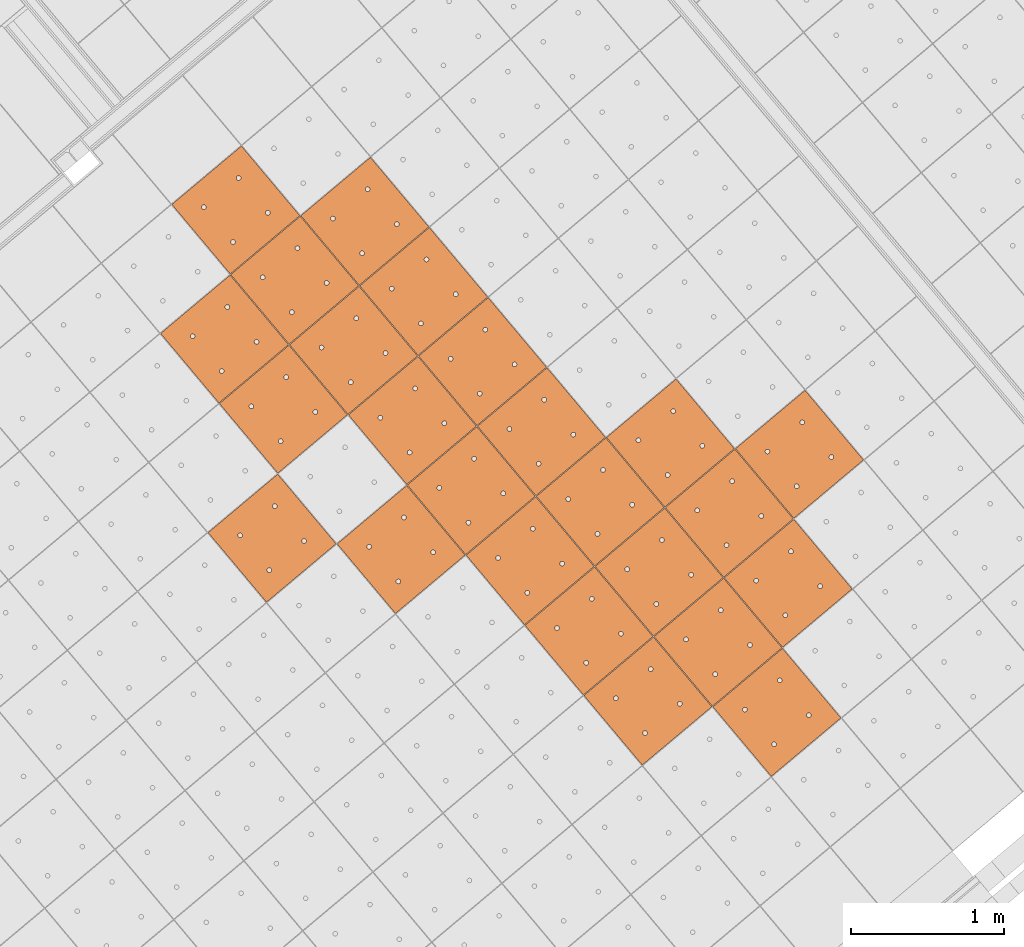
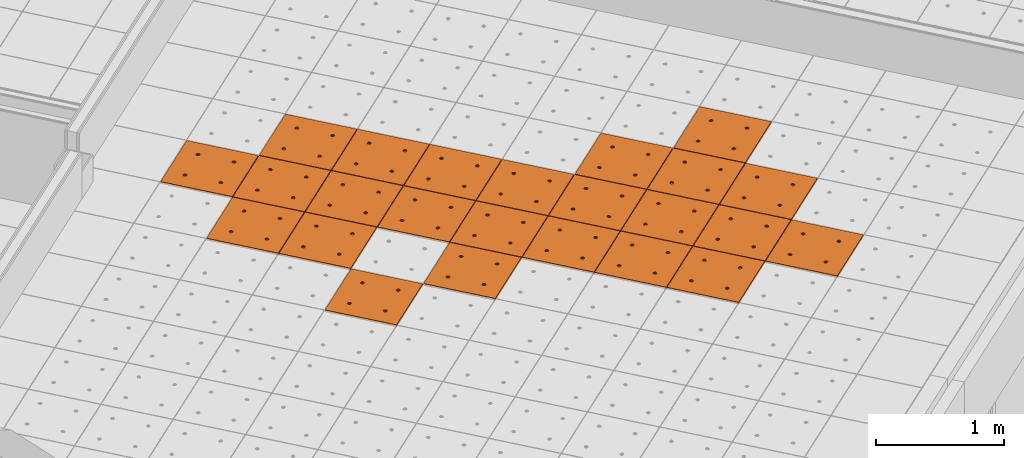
# One storey, part 134 of 338: 24 proxies, 1 element without a shape of its own.
"""IFC2X3 building model written with IfcOpenShell, lengths in millimetres."""

from ifc_helpers import new_model, entity, si_unit, converted_unit, derived_unit, money_unit, direction, frame, origin_with_axes, place, context, subcontext, project, spatial, faceted_brep, source, transform, mapped, material, type_object, type_shapes, element, aggregate, save


model = new_model("IFC2X3")

# Units and contexts
model_context = context("Model", 3, precision=0.01, world=origin_with_axes(), true_north=direction((0.0, 1.0)))
plan_context = context("Plan", 3, precision=0.01, world=origin_with_axes(), true_north=direction((0.0, 1.0)))
body_context = subcontext(model_context, "Body", "Model", "MODEL_VIEW")
ifc_project = project(units=[si_unit("LENGTHUNIT", "METRE", prefix="MILLI"), si_unit("AREAUNIT", "SQUARE_METRE"), si_unit("VOLUMEUNIT", "CUBIC_METRE"), converted_unit("PLANEANGLEUNIT", "DEGREE", entity("IfcPlaneAngleMeasure", 0.0174532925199), si_unit("PLANEANGLEUNIT", "RADIAN"), dimensions=[0, 0, 0, 0, 0, 0, 0]), money_unit("EUR"), converted_unit("TIMEUNIT", "Year", entity("IfcTimeMeasure", 31556926.0), si_unit("TIMEUNIT", "SECOND"), dimensions=[0, 0, 1, 0, 0, 0, 0]), si_unit("MASSUNIT", "GRAM", prefix="KILO"), si_unit("THERMODYNAMICTEMPERATUREUNIT", "DEGREE_CELSIUS"), si_unit("LUMINOUSINTENSITYUNIT", "LUMEN"), si_unit("ENERGYUNIT", "JOULE", prefix="MEGA"), derived_unit("THERMALCONDUCTANCEUNIT", [(si_unit("POWERUNIT", "WATT"), 1), (si_unit("LENGTHUNIT", "METRE"), -1), (si_unit("THERMODYNAMICTEMPERATUREUNIT", "KELVIN"), -1)]), derived_unit("SPECIFICHEATCAPACITYUNIT", [(si_unit("ENERGYUNIT", "JOULE"), 1), (si_unit("MASSUNIT", "GRAM", prefix="KILO"), -1), (si_unit("THERMODYNAMICTEMPERATUREUNIT", "KELVIN"), -1)]), derived_unit("MASSDENSITYUNIT", [(si_unit("MASSUNIT", "GRAM", prefix="KILO"), 1), (si_unit("VOLUMEUNIT", "CUBIC_METRE"), -1)])], contexts=[model_context, plan_context])

# Site, building, storey
site_placement = place(None, origin_with_axes())
site = spatial("IfcSite", under=ifc_project, at=site_placement, Name="Fortuinstraat Woensdrecht", CompositionType="ELEMENT")
building_placement = place(site_placement, origin_with_axes())
building = spatial("IfcBuilding", under=site, at=building_placement, Name="IKC Fortuna", CompositionType="ELEMENT")
storey_placement = place(building_placement, origin_with_axes())
storey = spatial("IfcBuildingStorey", under=building, at=storey_placement, Name="00 begane grond", CompositionType="ELEMENT", Elevation=0.0)

# Covering, proxies
covering_type = type_object("IfcCoveringType", Name="Curtain Wall Type", PredefinedType="CEILING")
covering_placement = place(storey_placement, frame((15150.6418133, -6622.13986243, 4660.0), z_axis=(0.0, 0.0, 1.0), x_axis=(1.0, 0.0, 0.0)))
covering = element("IfcCovering", 1, at=covering_placement, inside=storey, type_object=covering_type, Name="45_Plafondafwerking_P01", PredefinedType="CEILING")
ifc_material = material(Name="Gipsplaat")
building_element_proxy_type = type_object("IfcBuildingElementProxyType", Name="Main Panel 600 x 600 x 20", PredefinedType="NOTDEFINED")
shared_shape = source(origin_with_axes(), body_context, "Body", "Brep", [
    faceted_brep([(2.49999999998, 2.49999999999, -10.0), (300.0, 2.49999999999, -10.0), (300.0, 2.49999999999, 10.0), (2.49999999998, 2.49999999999, 10.0), (2.49999999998, 300.0, -10.0), (2.49999999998, 597.5, -10.0), (300.0, 597.5, -10.0), (597.5, 597.5, -10.0), (597.5, 300.0, -10.0), (597.5, 2.49999999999, -10.0), (166.25, 450.06232995, -10.0), (165.79423259, 452.64711538, -10.0), (164.896546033, 455.11348892, -10.0), (163.58421608, 457.38651108, -10.0), (161.897117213, 459.39711721, -10.0), (159.886511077, 461.08421608, -10.0), (157.613488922, 462.39654603, -10.0), (155.147115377, 463.29423259, -10.0), (152.562329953, 463.75, -10.0), (149.937670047, 463.75, -10.0), (147.352884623, 463.29423259, -10.0), (144.886511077, 462.39654603, -10.0), (142.613488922, 461.08421608, -10.0), (140.602882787, 459.39711721, -10.0), (138.91578392, 457.38651108, -10.0), (137.603453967, 455.11348892, -10.0), (136.705767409, 452.64711538, -10.0), (136.25, 450.06232995, -10.0), (136.25, 448.75, -10.0), (136.25, 447.43767005, -10.0), (136.705767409, 444.85288462, -10.0), (137.603453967, 442.38651108, -10.0), (138.91578392, 440.11348892, -10.0), (140.602882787, 438.10288279, -10.0), (142.613488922, 436.41578392, -10.0), (144.886511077, 435.10345397, -10.0), (147.352884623, 434.20576741, -10.0), (149.937670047, 433.75, -10.0), (152.562329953, 433.75, -10.0), (155.147115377, 434.20576741, -10.0), (157.613488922, 435.10345397, -10.0), (159.886511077, 436.41578392, -10.0), (161.897117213, 438.10288279, -10.0), (163.58421608, 440.11348892, -10.0), (164.896546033, 442.38651108, -10.0), (165.79423259, 444.85288462, -10.0), (166.25, 447.43767005, -10.0), (463.75, 450.06232995, -10.0), (463.29423259, 452.64711538, -10.0), (462.396546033, 455.11348892, -10.0), (461.08421608, 457.38651108, -10.0), (459.397117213, 459.39711721, -10.0), (457.386511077, 461.08421608, -10.0), (455.113488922, 462.39654603, -10.0), (452.647115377, 463.29423259, -10.0), (450.062329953, 463.75, -10.0), (447.437670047, 463.75, -10.0), (444.852884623, 463.29423259, -10.0), (442.386511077, 462.39654603, -10.0), (440.113488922, 461.08421608, -10.0), (438.102882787, 459.39711721, -10.0), (436.41578392, 457.38651108, -10.0), (435.103453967, 455.11348892, -10.0), (434.205767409, 452.64711538, -10.0), (433.75, 450.06232995, -10.0), (433.75, 448.75, -10.0), (433.75, 447.43767005, -10.0), (434.205767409, 444.85288462, -10.0), (435.103453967, 442.38651108, -10.0), (436.41578392, 440.11348892, -10.0), (438.102882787, 438.10288279, -10.0), (440.113488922, 436.41578392, -10.0), (442.386511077, 435.10345397, -10.0), (444.852884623, 434.20576741, -10.0), (447.437670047, 433.75, -10.0), (450.062329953, 433.75, -10.0), (452.647115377, 434.20576741, -10.0), (455.113488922, 435.10345397, -10.0), (457.386511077, 436.41578392, -10.0), (459.397117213, 438.10288279, -10.0), (461.08421608, 440.11348892, -10.0), (462.396546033, 442.38651108, -10.0), (463.29423259, 444.85288462, -10.0), (463.75, 447.43767005, -10.0), (463.75, 152.56232995, -10.0), (463.29423259, 155.14711538, -10.0), (462.396546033, 157.61348892, -10.0), (461.08421608, 159.88651108, -10.0), (459.397117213, 161.89711721, -10.0), (457.386511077, 163.58421608, -10.0), (455.113488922, 164.89654603, -10.0), (452.647115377, 165.79423259, -10.0), (450.062329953, 166.25, -10.0), (447.437670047, 166.25, -10.0), (444.852884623, 165.79423259, -10.0), (442.386511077, 164.89654603, -10.0), (440.113488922, 163.58421608, -10.0), (438.102882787, 161.89711721, -10.0), (436.41578392, 159.88651108, -10.0), (435.103453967, 157.61348892, -10.0), (434.205767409, 155.14711538, -10.0), (433.75, 152.56232995, -10.0), (433.75, 151.25, -10.0), (433.75, 149.93767005, -10.0), (434.205767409, 147.35288462, -10.0), (435.103453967, 144.88651108, -10.0), (436.41578392, 142.61348892, -10.0), (438.102882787, 140.60288279, -10.0), (440.113488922, 138.91578392, -10.0), (442.386511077, 137.60345397, -10.0), (444.852884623, 136.70576741, -10.0), (447.437670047, 136.25, -10.0), (450.062329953, 136.25, -10.0), (452.647115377, 136.70576741, -10.0), (455.113488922, 137.60345397, -10.0), (457.386511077, 138.91578392, -10.0), (459.397117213, 140.60288279, -10.0), (461.08421608, 142.61348892, -10.0), (462.396546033, 144.88651108, -10.0), (463.29423259, 147.35288462, -10.0), (463.75, 149.93767005, -10.0), (166.25, 152.56232995, -10.0), (165.79423259, 155.14711538, -10.0), (164.896546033, 157.61348892, -10.0), (163.58421608, 159.88651108, -10.0), (161.897117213, 161.89711721, -10.0), (159.886511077, 163.58421608, -10.0), (157.613488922, 164.89654603, -10.0), (155.147115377, 165.79423259, -10.0), (152.562329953, 166.25, -10.0), (149.937670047, 166.25, -10.0), (147.352884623, 165.79423259, -10.0), (144.886511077, 164.89654603, -10.0), (142.613488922, 163.58421608, -10.0), (140.602882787, 161.89711721, -10.0), (138.91578392, 159.88651108, -10.0), (137.603453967, 157.61348892, -10.0), (136.705767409, 155.14711538, -10.0), (136.25, 152.56232995, -10.0), (136.25, 151.25, -10.0), (136.25, 149.93767005, -10.0), (136.705767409, 147.35288462, -10.0), (137.603453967, 144.88651108, -10.0), (138.91578392, 142.61348892, -10.0), (140.602882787, 140.60288279, -10.0), (142.613488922, 138.91578392, -10.0), (144.886511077, 137.60345397, -10.0), (147.352884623, 136.70576741, -10.0), (149.937670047, 136.25, -10.0), (152.562329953, 136.25, -10.0), (155.147115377, 136.70576741, -10.0), (157.613488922, 137.60345397, -10.0), (159.886511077, 138.91578392, -10.0), (161.897117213, 140.60288279, -10.0), (163.58421608, 142.61348892, -10.0), (164.896546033, 144.88651108, -10.0), (165.79423259, 147.35288462, -10.0), (166.25, 149.93767005, -10.0), (597.5, 2.49999999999, 10.0), (597.5, 300.0, 10.0), (597.5, 597.5, 10.0), (300.0, 597.5, 10.0), (2.49999999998, 597.5, 10.0), (2.49999999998, 300.0, 10.0), (166.25, 450.06232995, 10.0), (166.25, 447.43767005, 10.0), (165.79423259, 444.85288462, 10.0), (164.896546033, 442.38651108, 10.0), (163.58421608, 440.11348892, 10.0), (161.897117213, 438.10288279, 10.0), (159.886511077, 436.41578392, 10.0), (157.613488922, 435.10345397, 10.0), (155.147115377, 434.20576741, 10.0), (152.562329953, 433.75, 10.0), (149.937670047, 433.75, 10.0), (147.352884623, 434.20576741, 10.0), (144.886511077, 435.10345397, 10.0), (142.613488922, 436.41578392, 10.0), (140.602882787, 438.10288279, 10.0), (138.91578392, 440.11348892, 10.0), (137.603453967, 442.38651108, 10.0), (136.705767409, 444.85288462, 10.0), (136.25, 447.43767005, 10.0), (136.25, 448.75, 10.0), (136.25, 450.06232995, 10.0), (136.705767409, 452.64711538, 10.0), (137.603453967, 455.11348892, 10.0), (138.91578392, 457.38651108, 10.0), (140.602882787, 459.39711721, 10.0), (142.613488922, 461.08421608, 10.0), (144.886511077, 462.39654603, 10.0), (147.352884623, 463.29423259, 10.0), (149.937670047, 463.75, 10.0), (152.562329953, 463.75, 10.0), (155.147115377, 463.29423259, 10.0), (157.613488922, 462.39654603, 10.0), (159.886511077, 461.08421608, 10.0), (161.897117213, 459.39711721, 10.0), (163.58421608, 457.38651108, 10.0), (164.896546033, 455.11348892, 10.0), (165.79423259, 452.64711538, 10.0), (463.75, 450.06232995, 10.0), (463.75, 447.43767005, 10.0), (463.29423259, 444.85288462, 10.0), (462.396546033, 442.38651108, 10.0), (461.08421608, 440.11348892, 10.0), (459.397117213, 438.10288279, 10.0), (457.386511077, 436.41578392, 10.0), (455.113488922, 435.10345397, 10.0), (452.647115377, 434.20576741, 10.0), (450.062329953, 433.75, 10.0), (447.437670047, 433.75, 10.0), (444.852884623, 434.20576741, 10.0), (442.386511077, 435.10345397, 10.0), (440.113488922, 436.41578392, 10.0), (438.102882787, 438.10288279, 10.0), (436.41578392, 440.11348892, 10.0), (435.103453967, 442.38651108, 10.0), (434.205767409, 444.85288462, 10.0), (433.75, 447.43767005, 10.0), (433.75, 448.75, 10.0), (433.75, 450.06232995, 10.0), (434.205767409, 452.64711538, 10.0), (435.103453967, 455.11348892, 10.0), (436.41578392, 457.38651108, 10.0), (438.102882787, 459.39711721, 10.0), (440.113488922, 461.08421608, 10.0), (442.386511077, 462.39654603, 10.0), (444.852884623, 463.29423259, 10.0), (447.437670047, 463.75, 10.0), (450.062329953, 463.75, 10.0), (452.647115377, 463.29423259, 10.0), (455.113488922, 462.39654603, 10.0), (457.386511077, 461.08421608, 10.0), (459.397117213, 459.39711721, 10.0), (461.08421608, 457.38651108, 10.0), (462.396546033, 455.11348892, 10.0), (463.29423259, 452.64711538, 10.0), (463.75, 152.56232995, 10.0), (463.75, 149.93767005, 10.0), (463.29423259, 147.35288462, 10.0), (462.396546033, 144.88651108, 10.0), (461.08421608, 142.61348892, 10.0), (459.397117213, 140.60288279, 10.0), (457.386511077, 138.91578392, 10.0), (455.113488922, 137.60345397, 10.0), (452.647115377, 136.70576741, 10.0), (450.062329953, 136.25, 10.0), (447.437670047, 136.25, 10.0), (444.852884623, 136.70576741, 10.0), (442.386511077, 137.60345397, 10.0), (440.113488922, 138.91578392, 10.0), (438.102882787, 140.60288279, 10.0), (436.41578392, 142.61348892, 10.0), (435.103453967, 144.88651108, 10.0), (434.205767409, 147.35288462, 10.0), (433.75, 149.93767005, 10.0), (433.75, 151.25, 10.0), (433.75, 152.56232995, 10.0), (434.205767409, 155.14711538, 10.0), (435.103453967, 157.61348892, 10.0), (436.41578392, 159.88651108, 10.0), (438.102882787, 161.89711721, 10.0), (440.113488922, 163.58421608, 10.0), (442.386511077, 164.89654603, 10.0), (444.852884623, 165.79423259, 10.0), (447.437670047, 166.25, 10.0), (450.062329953, 166.25, 10.0), (452.647115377, 165.79423259, 10.0), (455.113488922, 164.89654603, 10.0), (457.386511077, 163.58421608, 10.0), (459.397117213, 161.89711721, 10.0), (461.08421608, 159.88651108, 10.0), (462.396546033, 157.61348892, 10.0), (463.29423259, 155.14711538, 10.0), (166.25, 152.56232995, 10.0), (166.25, 149.93767005, 10.0), (165.79423259, 147.35288462, 10.0), (164.896546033, 144.88651108, 10.0), (163.58421608, 142.61348892, 10.0), (161.897117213, 140.60288279, 10.0), (159.886511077, 138.91578392, 10.0), (157.613488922, 137.60345397, 10.0), (155.147115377, 136.70576741, 10.0), (152.562329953, 136.25, 10.0), (149.937670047, 136.25, 10.0), (147.352884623, 136.70576741, 10.0), (144.886511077, 137.60345397, 10.0), (142.613488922, 138.91578392, 10.0), (140.602882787, 140.60288279, 10.0), (138.91578392, 142.61348892, 10.0), (137.603453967, 144.88651108, 10.0), (136.705767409, 147.35288462, 10.0), (136.25, 149.93767005, 10.0), (136.25, 151.25, 10.0), (136.25, 152.56232995, 10.0), (136.705767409, 155.14711538, 10.0), (137.603453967, 157.61348892, 10.0), (138.91578392, 159.88651108, 10.0), (140.602882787, 161.89711721, 10.0), (142.613488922, 163.58421608, 10.0), (144.886511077, 164.89654603, 10.0), (147.352884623, 165.79423259, 10.0), (149.937670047, 166.25, 10.0), (152.562329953, 166.25, 10.0), (155.147115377, 165.79423259, 10.0), (157.613488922, 164.89654603, 10.0), (159.886511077, 163.58421608, 10.0), (161.897117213, 161.89711721, 10.0), (163.58421608, 159.88651108, 10.0), (164.896546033, 157.61348892, 10.0), (165.79423259, 155.14711538, 10.0)], [[[0, 1, 2, 3]], [[0, 4, 5, 6, 7, 8, 9, 1], [10, 11, 12, 13, 14, 15, 16, 17, 18, 19, 20, 21, 22, 23, 24, 25, 26, 27, 28, 29, 30, 31, 32, 33, 34, 35, 36, 37, 38, 39, 40, 41, 42, 43, 44, 45, 46], [47, 48, 49, 50, 51, 52, 53, 54, 55, 56, 57, 58, 59, 60, 61, 62, 63, 64, 65, 66, 67, 68, 69, 70, 71, 72, 73, 74, 75, 76, 77, 78, 79, 80, 81, 82, 83], [84, 85, 86, 87, 88, 89, 90, 91, 92, 93, 94, 95, 96, 97, 98, 99, 100, 101, 102, 103, 104, 105, 106, 107, 108, 109, 110, 111, 112, 113, 114, 115, 116, 117, 118, 119, 120], [121, 122, 123, 124, 125, 126, 127, 128, 129, 130, 131, 132, 133, 134, 135, 136, 137, 138, 139, 140, 141, 142, 143, 144, 145, 146, 147, 148, 149, 150, 151, 152, 153, 154, 155, 156, 157]], [[1, 9, 158, 2]], [[3, 2, 158, 159, 160, 161, 162, 163], [164, 165, 166, 167, 168, 169, 170, 171, 172, 173, 174, 175, 176, 177, 178, 179, 180, 181, 182, 183, 184, 185, 186, 187, 188, 189, 190, 191, 192, 193, 194, 195, 196, 197, 198, 199, 200], [201, 202, 203, 204, 205, 206, 207, 208, 209, 210, 211, 212, 213, 214, 215, 216, 217, 218, 219, 220, 221, 222, 223, 224, 225, 226, 227, 228, 229, 230, 231, 232, 233, 234, 235, 236, 237], [238, 239, 240, 241, 242, 243, 244, 245, 246, 247, 248, 249, 250, 251, 252, 253, 254, 255, 256, 257, 258, 259, 260, 261, 262, 263, 264, 265, 266, 267, 268, 269, 270, 271, 272, 273, 274], [275, 276, 277, 278, 279, 280, 281, 282, 283, 284, 285, 286, 287, 288, 289, 290, 291, 292, 293, 294, 295, 296, 297, 298, 299, 300, 301, 302, 303, 304, 305, 306, 307, 308, 309, 310, 311]], [[4, 0, 3, 163]], [[5, 4, 163, 162]], [[6, 5, 162, 161]], [[7, 6, 161, 160]], [[8, 7, 160, 159]], [[9, 8, 159, 158]], [[11, 10, 164, 200]], [[12, 11, 200, 199]], [[13, 12, 199, 198]], [[14, 13, 198, 197]], [[15, 14, 197, 196]], [[16, 15, 196, 195]], [[17, 16, 195, 194]], [[18, 17, 194, 193]], [[19, 18, 193, 192]], [[20, 19, 192, 191]], [[21, 20, 191, 190]], [[22, 21, 190, 189]], [[23, 22, 189, 188]], [[24, 23, 188, 187]], [[25, 24, 187, 186]], [[26, 25, 186, 185]], [[27, 26, 185, 184]], [[28, 27, 184, 183]], [[29, 28, 183, 182]], [[30, 29, 182, 181]], [[31, 30, 181, 180]], [[32, 31, 180, 179]], [[33, 32, 179, 178]], [[34, 33, 178, 177]], [[35, 34, 177, 176]], [[36, 35, 176, 175]], [[37, 36, 175, 174]], [[38, 37, 174, 173]], [[39, 38, 173, 172]], [[40, 39, 172, 171]], [[41, 40, 171, 170]], [[42, 41, 170, 169]], [[43, 42, 169, 168]], [[44, 43, 168, 167]], [[45, 44, 167, 166]], [[46, 45, 166, 165]], [[10, 46, 165, 164]], [[48, 47, 201, 237]], [[49, 48, 237, 236]], [[50, 49, 236, 235]], [[51, 50, 235, 234]], [[52, 51, 234, 233]], [[53, 52, 233, 232]], [[54, 53, 232, 231]], [[55, 54, 231, 230]], [[56, 55, 230, 229]], [[57, 56, 229, 228]], [[58, 57, 228, 227]], [[59, 58, 227, 226]], [[60, 59, 226, 225]], [[61, 60, 225, 224]], [[62, 61, 224, 223]], [[63, 62, 223, 222]], [[64, 63, 222, 221]], [[65, 64, 221, 220]], [[66, 65, 220, 219]], [[67, 66, 219, 218]], [[68, 67, 218, 217]], [[69, 68, 217, 216]], [[70, 69, 216, 215]], [[71, 70, 215, 214]], [[72, 71, 214, 213]], [[73, 72, 213, 212]], [[74, 73, 212, 211]], [[75, 74, 211, 210]], [[76, 75, 210, 209]], [[77, 76, 209, 208]], [[78, 77, 208, 207]], [[79, 78, 207, 206]], [[80, 79, 206, 205]], [[81, 80, 205, 204]], [[82, 81, 204, 203]], [[83, 82, 203, 202]], [[47, 83, 202, 201]], [[85, 84, 238, 274]], [[86, 85, 274, 273]], [[87, 86, 273, 272]], [[88, 87, 272, 271]], [[89, 88, 271, 270]], [[90, 89, 270, 269]], [[91, 90, 269, 268]], [[92, 91, 268, 267]], [[93, 92, 267, 266]], [[94, 93, 266, 265]], [[95, 94, 265, 264]], [[96, 95, 264, 263]], [[97, 96, 263, 262]], [[98, 97, 262, 261]], [[99, 98, 261, 260]], [[100, 99, 260, 259]], [[101, 100, 259, 258]], [[102, 101, 258, 257]], [[103, 102, 257, 256]], [[104, 103, 256, 255]], [[105, 104, 255, 254]], [[106, 105, 254, 253]], [[107, 106, 253, 252]], [[108, 107, 252, 251]], [[109, 108, 251, 250]], [[110, 109, 250, 249]], [[111, 110, 249, 248]], [[112, 111, 248, 247]], [[113, 112, 247, 246]], [[114, 113, 246, 245]], [[115, 114, 245, 244]], [[116, 115, 244, 243]], [[117, 116, 243, 242]], [[118, 117, 242, 241]], [[119, 118, 241, 240]], [[120, 119, 240, 239]], [[84, 120, 239, 238]], [[122, 121, 275, 311]], [[123, 122, 311, 310]], [[124, 123, 310, 309]], [[125, 124, 309, 308]], [[126, 125, 308, 307]], [[127, 126, 307, 306]], [[128, 127, 306, 305]], [[129, 128, 305, 304]], [[130, 129, 304, 303]], [[131, 130, 303, 302]], [[132, 131, 302, 301]], [[133, 132, 301, 300]], [[134, 133, 300, 299]], [[135, 134, 299, 298]], [[136, 135, 298, 297]], [[137, 136, 297, 296]], [[138, 137, 296, 295]], [[139, 138, 295, 294]], [[140, 139, 294, 293]], [[141, 140, 293, 292]], [[142, 141, 292, 291]], [[143, 142, 291, 290]], [[144, 143, 290, 289]], [[145, 144, 289, 288]], [[146, 145, 288, 287]], [[147, 146, 287, 286]], [[148, 147, 286, 285]], [[149, 148, 285, 284]], [[150, 149, 284, 283]], [[151, 150, 283, 282]], [[152, 151, 282, 281]], [[153, 152, 281, 280]], [[154, 153, 280, 279]], [[155, 154, 279, 278]], [[156, 155, 278, 277]], [[157, 156, 277, 276]], [[121, 157, 276, 275]]]),
])
type_shapes(building_element_proxy_type, [shared_shape])
proxy_1_placement = place(covering_placement, frame((-952.556337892, -2450.62952983, 0.0), z_axis=(0.0, 0.0, 1.0), x_axis=(1.0, 0.0, 0.0)))
proxy_1 = element("IfcBuildingElementProxy", 2, at=proxy_1_placement, type_object=building_element_proxy_type, material=ifc_material, Name="__600x622 Rockfon Krios", context=body_context, shape_type="MappedRepresentation", body=[
    mapped(shared_shape, transform((36.9769427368, 422.649625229, 0.0), x_axis=(-0.766044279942, -0.642787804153, 0.0), y_axis=(0.642787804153, -0.766044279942, 0.0), z_axis=(0.0, 0.0, 1.0))),
])
proxy_2_placement = place(covering_placement, frame((-1797.85558835, -2376.67564436, 0.0), z_axis=(0.0, 0.0, 1.0), x_axis=(1.0, 0.0, 0.0)))
proxy_2 = element("IfcBuildingElementProxy", 3, at=proxy_2_placement, type_object=building_element_proxy_type, material=ifc_material, Name="__600x625 Rockfon Krios", context=body_context, shape_type="MappedRepresentation", body=[
    mapped(shared_shape, transform((36.9769427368, 422.649625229, 0.0), x_axis=(-0.766044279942, -0.642787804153, 0.0), y_axis=(0.642787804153, -0.766044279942, 0.0), z_axis=(0.0, 0.0, 1.0))),
])
proxy_3_placement = place(covering_placement, frame((-1486.13679133, -3681.60146278, 1.1901590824e-10), z_axis=(0.0, 0.0, 1.0), x_axis=(1.0, 0.0, 0.0)))
proxy_3 = element("IfcBuildingElementProxy", 4, at=proxy_3_placement, type_object=building_element_proxy_type, material=ifc_material, Name="__600x626 Rockfon Krios", context=body_context, shape_type="MappedRepresentation", body=[
    mapped(shared_shape, transform((36.9769427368, 422.649625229, 0.0), x_axis=(-0.766044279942, -0.642787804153, 0.0), y_axis=(0.642787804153, -0.766044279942, 0.0), z_axis=(0.0, 0.0, 1.0))),
])
proxy_4_placement = place(covering_placement, frame((-1412.18290586, -2836.30221232, 0.0), z_axis=(0.0, 0.0, 1.0), x_axis=(1.0, 0.0, 0.0)))
proxy_4 = element("IfcBuildingElementProxy", 5, at=proxy_4_placement, type_object=building_element_proxy_type, material=ifc_material, Name="__600x642 Rockfon Krios", context=body_context, shape_type="MappedRepresentation", body=[
    mapped(shared_shape, transform((36.9769427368, 422.649625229, 0.0), x_axis=(-0.766044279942, -0.642787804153, 0.0), y_axis=(0.642787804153, -0.766044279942, 0.0), z_axis=(0.0, 0.0, 1.0))),
])
proxy_5_placement = place(covering_placement, frame((-1871.80947382, -3221.97489482, 1.1901590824e-10), z_axis=(0.0, 0.0, 1.0), x_axis=(1.0, 0.0, 0.0)))
proxy_5 = element("IfcBuildingElementProxy", 6, at=proxy_5_placement, type_object=building_element_proxy_type, material=ifc_material, Name="__600x650 Rockfon Krios", context=body_context, shape_type="MappedRepresentation", body=[
    mapped(shared_shape, transform((36.9769427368, 422.649625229, 0.0), x_axis=(-0.766044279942, -0.642787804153, 0.0), y_axis=(0.642787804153, -0.766044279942, 0.0), z_axis=(0.0, 0.0, 1.0))),
])
proxy_6_placement = place(covering_placement, frame((-566.883655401, -2910.2560978, 0.0), z_axis=(0.0, 0.0, 1.0), x_axis=(1.0, 0.0, 0.0)))
proxy_6 = element("IfcBuildingElementProxy", 7, at=proxy_6_placement, type_object=building_element_proxy_type, material=ifc_material, Name="__600x663 Rockfon Krios", context=body_context, shape_type="MappedRepresentation", body=[
    mapped(shared_shape, transform((36.9769427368, 422.649625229, 0.0), x_axis=(-0.766044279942, -0.642787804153, 0.0), y_axis=(0.642787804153, -0.766044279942, 0.0), z_axis=(0.0, 0.0, 1.0))),
])
proxy_7_placement = place(covering_placement, frame((1895.0602105, -3977.41700468, 0.0), z_axis=(0.0, 0.0, 1.0), x_axis=(1.0, 0.0, 0.0)))
proxy_7 = element("IfcBuildingElementProxy", 8, at=proxy_7_placement, type_object=building_element_proxy_type, material=ifc_material, Name="__600x703 Rockfon Krios", context=body_context, shape_type="MappedRepresentation", body=[
    mapped(shared_shape, transform((36.9769427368, 422.649625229, 0.0), x_axis=(-0.766044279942, -0.642787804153, 0.0), y_axis=(0.642787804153, -0.766044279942, 0.0), z_axis=(0.0, 0.0, 1.0))),
])
proxy_8_placement = place(covering_placement, frame((1049.76096004, -3903.4631192, 0.0), z_axis=(0.0, 0.0, 1.0), x_axis=(1.0, 0.0, 0.0)))
proxy_8 = element("IfcBuildingElementProxy", 9, at=proxy_8_placement, type_object=building_element_proxy_type, material=ifc_material, Name="__600x711 Rockfon Krios", context=body_context, shape_type="MappedRepresentation", body=[
    mapped(shared_shape, transform((36.9769427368, 422.649625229, 0.0), x_axis=(-0.766044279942, -0.642787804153, 0.0), y_axis=(0.642787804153, -0.766044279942, 0.0), z_axis=(0.0, 0.0, 1.0))),
])
proxy_9_placement = place(covering_placement, frame((1435.43364253, -4363.08968717, 0.0), z_axis=(0.0, 0.0, 1.0), x_axis=(1.0, 0.0, 0.0)))
proxy_9 = element("IfcBuildingElementProxy", 10, at=proxy_9_placement, type_object=building_element_proxy_type, material=ifc_material, Name="__600x712 Rockfon Krios", context=body_context, shape_type="MappedRepresentation", body=[
    mapped(shared_shape, transform((36.9769427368, 422.649625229, 0.0), x_axis=(-0.766044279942, -0.642787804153, 0.0), y_axis=(0.642787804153, -0.766044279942, 0.0), z_axis=(0.0, 0.0, 1.0))),
])
proxy_10_placement = place(covering_placement, frame((1821.10632502, -4822.71625513, 0.0), z_axis=(0.0, 0.0, 1.0), x_axis=(1.0, 0.0, 0.0)))
proxy_10 = element("IfcBuildingElementProxy", 11, at=proxy_10_placement, type_object=building_element_proxy_type, material=ifc_material, Name="__600x713 Rockfon Krios", context=body_context, shape_type="MappedRepresentation", body=[
    mapped(shared_shape, transform((36.9769427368, 422.649625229, 0.0), x_axis=(-0.766044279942, -0.642787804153, 0.0), y_axis=(0.642787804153, -0.766044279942, 0.0), z_axis=(0.0, 0.0, 1.0))),
])
proxy_11_placement = place(covering_placement, frame((-181.210972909, -3369.88266576, 0.0), z_axis=(0.0, 0.0, 1.0), x_axis=(1.0, 0.0, 0.0)))
proxy_11 = element("IfcBuildingElementProxy", 12, at=proxy_11_placement, type_object=building_element_proxy_type, material=ifc_material, Name="__600x718 Rockfon Krios", context=body_context, shape_type="MappedRepresentation", body=[
    mapped(shared_shape, transform((36.9769427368, 422.649625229, 0.0), x_axis=(-0.766044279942, -0.642787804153, 0.0), y_axis=(0.642787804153, -0.766044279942, 0.0), z_axis=(0.0, 0.0, 1.0))),
])
proxy_12_placement = place(covering_placement, frame((204.461709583, -3829.50923373, 0.0), z_axis=(0.0, 0.0, 1.0), x_axis=(1.0, 0.0, 0.0)))
proxy_12 = element("IfcBuildingElementProxy", 13, at=proxy_12_placement, type_object=building_element_proxy_type, material=ifc_material, Name="__600x719 Rockfon Krios", context=body_context, shape_type="MappedRepresentation", body=[
    mapped(shared_shape, transform((36.9769427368, 422.649625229, 0.0), x_axis=(-0.766044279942, -0.642787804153, 0.0), y_axis=(0.642787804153, -0.766044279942, 0.0), z_axis=(0.0, 0.0, 1.0))),
])
proxy_13_placement = place(covering_placement, frame((590.134392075, -4289.13580169, 0.0), z_axis=(0.0, 0.0, 1.0), x_axis=(1.0, 0.0, 0.0)))
proxy_13 = element("IfcBuildingElementProxy", 14, at=proxy_13_placement, type_object=building_element_proxy_type, material=ifc_material, Name="__600x720 Rockfon Krios", context=body_context, shape_type="MappedRepresentation", body=[
    mapped(shared_shape, transform((36.9769427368, 422.649625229, 0.0), x_axis=(-0.766044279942, -0.642787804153, 0.0), y_axis=(0.642787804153, -0.766044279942, 0.0), z_axis=(0.0, 0.0, 1.0))),
])
proxy_14_placement = place(covering_placement, frame((975.807074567, -4748.76236966, 0.0), z_axis=(0.0, 0.0, 1.0), x_axis=(1.0, 0.0, 0.0)))
proxy_14 = element("IfcBuildingElementProxy", 15, at=proxy_14_placement, type_object=building_element_proxy_type, material=ifc_material, Name="__600x721 Rockfon Krios", context=body_context, shape_type="MappedRepresentation", body=[
    mapped(shared_shape, transform((36.9769427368, 422.649625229, 0.0), x_axis=(-0.766044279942, -0.642787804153, 0.0), y_axis=(0.642787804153, -0.766044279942, 0.0), z_axis=(0.0, 0.0, 1.0))),
])
proxy_15_placement = place(covering_placement, frame((1361.47975706, -5208.38893762, 0.0), z_axis=(0.0, 0.0, 1.0), x_axis=(1.0, 0.0, 0.0)))
proxy_15 = element("IfcBuildingElementProxy", 16, at=proxy_15_placement, type_object=building_element_proxy_type, material=ifc_material, Name="__600x722 Rockfon Krios", context=body_context, shape_type="MappedRepresentation", body=[
    mapped(shared_shape, transform((36.9769427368, 422.649625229, 0.0), x_axis=(-0.766044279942, -0.642787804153, 0.0), y_axis=(0.642787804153, -0.766044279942, 0.0), z_axis=(0.0, 0.0, 1.0))),
])
proxy_16_placement = place(covering_placement, frame((1747.15243955, -5668.01550559, 0.0), z_axis=(0.0, 0.0, 1.0), x_axis=(1.0, 0.0, 0.0)))
proxy_16 = element("IfcBuildingElementProxy", 17, at=proxy_16_placement, type_object=building_element_proxy_type, material=ifc_material, Name="__600x723 Rockfon Krios", context=body_context, shape_type="MappedRepresentation", body=[
    mapped(shared_shape, transform((36.9769427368, 422.649625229, 0.0), x_axis=(-0.766044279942, -0.642787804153, 0.0), y_axis=(0.642787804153, -0.766044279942, 0.0), z_axis=(0.0, 0.0, 1.0))),
])
proxy_17_placement = place(covering_placement, frame((-1026.51022337, -3295.92878029, 0.0), z_axis=(0.0, 0.0, 1.0), x_axis=(1.0, 0.0, 0.0)))
proxy_17 = element("IfcBuildingElementProxy", 18, at=proxy_17_placement, type_object=building_element_proxy_type, material=ifc_material, Name="__600x726 Rockfon Krios", context=body_context, shape_type="MappedRepresentation", body=[
    mapped(shared_shape, transform((36.9769427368, 422.649625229, 0.0), x_axis=(-0.766044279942, -0.642787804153, 0.0), y_axis=(0.642787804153, -0.766044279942, 0.0), z_axis=(0.0, 0.0, 1.0))),
])
proxy_18_placement = place(covering_placement, frame((-640.837540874, -3755.55534825, 0.0), z_axis=(0.0, 0.0, 1.0), x_axis=(1.0, 0.0, 0.0)))
proxy_18 = element("IfcBuildingElementProxy", 19, at=proxy_18_placement, type_object=building_element_proxy_type, material=ifc_material, Name="__600x727 Rockfon Krios", context=body_context, shape_type="MappedRepresentation", body=[
    mapped(shared_shape, transform((36.9769427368, 422.649625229, 0.0), x_axis=(-0.766044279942, -0.642787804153, 0.0), y_axis=(0.642787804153, -0.766044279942, 0.0), z_axis=(0.0, 0.0, 1.0))),
])
proxy_19_placement = place(covering_placement, frame((-255.164858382, -4215.18191622, 0.0), z_axis=(0.0, 0.0, 1.0), x_axis=(1.0, 0.0, 0.0)))
proxy_19 = element("IfcBuildingElementProxy", 20, at=proxy_19_placement, type_object=building_element_proxy_type, material=ifc_material, Name="__600x728 Rockfon Krios", context=body_context, shape_type="MappedRepresentation", body=[
    mapped(shared_shape, transform((36.9769427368, 422.649625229, 0.0), x_axis=(-0.766044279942, -0.642787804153, 0.0), y_axis=(0.642787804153, -0.766044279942, 0.0), z_axis=(0.0, 0.0, 1.0))),
])
proxy_20_placement = place(covering_placement, frame((130.507824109, -4674.80848419, 0.0), z_axis=(0.0, 0.0, 1.0), x_axis=(1.0, 0.0, 0.0)))
proxy_20 = element("IfcBuildingElementProxy", 21, at=proxy_20_placement, type_object=building_element_proxy_type, material=ifc_material, Name="__600x729 Rockfon Krios", context=body_context, shape_type="MappedRepresentation", body=[
    mapped(shared_shape, transform((36.9769427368, 422.649625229, 0.0), x_axis=(-0.766044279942, -0.642787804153, 0.0), y_axis=(0.642787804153, -0.766044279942, 0.0), z_axis=(0.0, 0.0, 1.0))),
])
proxy_21_placement = place(covering_placement, frame((516.180506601, -5134.43505215, 0.0), z_axis=(0.0, 0.0, 1.0), x_axis=(1.0, 0.0, 0.0)))
proxy_21 = element("IfcBuildingElementProxy", 22, at=proxy_21_placement, type_object=building_element_proxy_type, material=ifc_material, Name="__600x730 Rockfon Krios", context=body_context, shape_type="MappedRepresentation", body=[
    mapped(shared_shape, transform((36.9769427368, 422.649625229, 0.0), x_axis=(-0.766044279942, -0.642787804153, 0.0), y_axis=(0.642787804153, -0.766044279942, 0.0), z_axis=(0.0, 0.0, 1.0))),
])
proxy_22_placement = place(covering_placement, frame((901.853189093, -5594.06162012, 0.0), z_axis=(0.0, 0.0, 1.0), x_axis=(1.0, 0.0, 0.0)))
proxy_22 = element("IfcBuildingElementProxy", 23, at=proxy_22_placement, type_object=building_element_proxy_type, material=ifc_material, Name="__600x731 Rockfon Krios", context=body_context, shape_type="MappedRepresentation", body=[
    mapped(shared_shape, transform((36.9769427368, 422.649625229, 0.0), x_axis=(-0.766044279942, -0.642787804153, 0.0), y_axis=(0.642787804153, -0.766044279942, 0.0), z_axis=(0.0, 0.0, 1.0))),
])
proxy_23_placement = place(covering_placement, frame((-714.791426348, -4600.85459871, 1.1901590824e-10), z_axis=(0.0, 0.0, 1.0), x_axis=(1.0, 0.0, 0.0)))
proxy_23 = element("IfcBuildingElementProxy", 24, at=proxy_23_placement, type_object=building_element_proxy_type, material=ifc_material, Name="__600x737 Rockfon Krios", context=body_context, shape_type="MappedRepresentation", body=[
    mapped(shared_shape, transform((36.9769427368, 422.649625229, 0.0), x_axis=(-0.766044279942, -0.642787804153, 0.0), y_axis=(0.642787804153, -0.766044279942, 0.0), z_axis=(0.0, 0.0, 1.0))),
])
proxy_24_placement = place(covering_placement, frame((-1560.0906768, -4526.90071324, 1.38555833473e-10), z_axis=(0.0, 0.0, 1.0), x_axis=(1.0, 0.0, 0.0)))
proxy_24 = element("IfcBuildingElementProxy", 25, at=proxy_24_placement, type_object=building_element_proxy_type, material=ifc_material, Name="__600x745 Rockfon Krios", context=body_context, shape_type="MappedRepresentation", body=[
    mapped(shared_shape, transform((36.9769427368, 422.649625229, 0.0), x_axis=(-0.766044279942, -0.642787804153, 0.0), y_axis=(0.642787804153, -0.766044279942, 0.0), z_axis=(0.0, 0.0, 1.0))),
])
aggregate(covering, [proxy_1, proxy_2, proxy_3, proxy_4, proxy_5, proxy_6, proxy_7, proxy_8, proxy_9, proxy_10, proxy_11, proxy_12, proxy_13, proxy_14, proxy_15, proxy_16, proxy_17, proxy_18, proxy_19, proxy_20, proxy_21, proxy_22, proxy_23, proxy_24])

save(model, "model.ifc")
